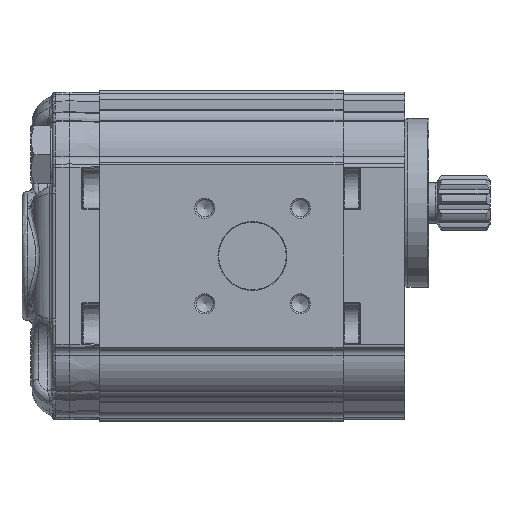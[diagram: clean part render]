
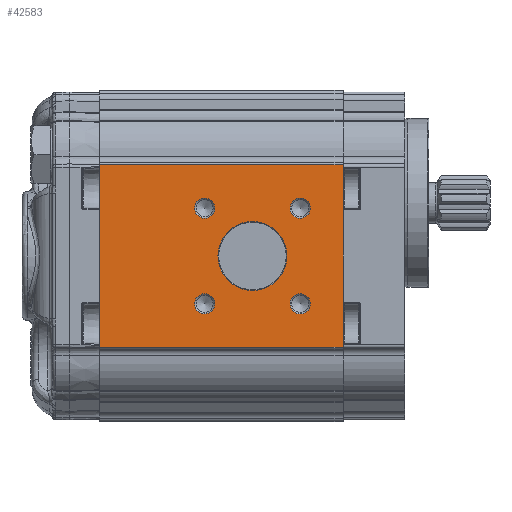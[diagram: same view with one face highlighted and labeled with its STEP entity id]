
A CAD part, left-side view. The second image highlights one B-rep face of the part: STEP entity #42583.
In plain terms, the highlighted planar face has unit normal (-1, 0, 0).
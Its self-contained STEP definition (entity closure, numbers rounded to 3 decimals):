
#2377=PLANE('',#44874);
#3345=LINE('',#58528,#5213);
#3346=LINE('',#58531,#5214);
#3347=LINE('',#58533,#5215);
#3348=LINE('',#58535,#5216);
#5213=VECTOR('',#49193,1000.);
#5214=VECTOR('',#49194,1000.);
#5215=VECTOR('',#49195,1000.);
#5216=VECTOR('',#49196,1000.);
#8960=ORIENTED_EDGE('',*,*,#16762,.T.);
#8961=ORIENTED_EDGE('',*,*,#16763,.T.);
#8962=ORIENTED_EDGE('',*,*,#16764,.T.);
#8963=ORIENTED_EDGE('',*,*,#16765,.T.);
#8964=ORIENTED_EDGE('',*,*,#16766,.T.);
#8965=ORIENTED_EDGE('',*,*,#16767,.F.);
#8966=ORIENTED_EDGE('',*,*,#16768,.F.);
#8967=ORIENTED_EDGE('',*,*,#16769,.T.);
#8968=ORIENTED_EDGE('',*,*,#16770,.T.);
#16762=EDGE_CURVE('',#20866,#20866,#23302,.F.);
#16763=EDGE_CURVE('',#20867,#20867,#23303,.F.);
#16764=EDGE_CURVE('',#20868,#20868,#23304,.F.);
#16765=EDGE_CURVE('',#20869,#20869,#23305,.F.);
#16766=EDGE_CURVE('',#20870,#20870,#23306,.F.);
#16767=EDGE_CURVE('',#20871,#20872,#3345,.T.);
#16768=EDGE_CURVE('',#20873,#20871,#3346,.T.);
#16769=EDGE_CURVE('',#20873,#20874,#3347,.T.);
#16770=EDGE_CURVE('',#20874,#20872,#3348,.T.);
#20866=VERTEX_POINT('',#58519);
#20867=VERTEX_POINT('',#58521);
#20868=VERTEX_POINT('',#58523);
#20869=VERTEX_POINT('',#58525);
#20870=VERTEX_POINT('',#58527);
#20871=VERTEX_POINT('',#58529);
#20872=VERTEX_POINT('',#58530);
#20873=VERTEX_POINT('',#58532);
#20874=VERTEX_POINT('',#58534);
#23302=CIRCLE('',#44875,10.2);
#23303=CIRCLE('',#44876,3.);
#23304=CIRCLE('',#44877,3.);
#23305=CIRCLE('',#44878,3.);
#23306=CIRCLE('',#44879,3.);
#24807=EDGE_LOOP('',(#8960));
#24808=EDGE_LOOP('',(#8961));
#24809=EDGE_LOOP('',(#8962));
#24810=EDGE_LOOP('',(#8963));
#24811=EDGE_LOOP('',(#8964));
#24812=EDGE_LOOP('',(#8965,#8966,#8967,#8968));
#26930=FACE_BOUND('',#24807,.T.);
#26931=FACE_BOUND('',#24808,.T.);
#26932=FACE_BOUND('',#24809,.T.);
#26933=FACE_BOUND('',#24810,.T.);
#26934=FACE_BOUND('',#24811,.T.);
#26935=FACE_BOUND('',#24812,.T.);
#42583=ADVANCED_FACE('',(#26930,#26931,#26932,#26933,#26934,#26935),#2377,
 .T.);
#44874=AXIS2_PLACEMENT_3D('',#58517,#49181,#49182);
#44875=AXIS2_PLACEMENT_3D('',#58518,#49183,#49184);
#44876=AXIS2_PLACEMENT_3D('',#58520,#49185,#49186);
#44877=AXIS2_PLACEMENT_3D('',#58522,#49187,#49188);
#44878=AXIS2_PLACEMENT_3D('',#58524,#49189,#49190);
#44879=AXIS2_PLACEMENT_3D('',#58526,#49191,#49192);
#49181=DIRECTION('',(-1.,0.,0.));
#49182=DIRECTION('',(0.,0.,1.));
#49183=DIRECTION('',(-1.,0.,0.));
#49184=DIRECTION('',(0.,0.,1.));
#49185=DIRECTION('',(-1.,0.,0.));
#49186=DIRECTION('',(0.,0.,1.));
#49187=DIRECTION('',(-1.,0.,0.));
#49188=DIRECTION('',(0.,0.,1.));
#49189=DIRECTION('',(-1.,0.,0.));
#49190=DIRECTION('',(0.,0.,1.));
#49191=DIRECTION('',(-1.,0.,0.));
#49192=DIRECTION('',(0.,0.,1.));
#49193=DIRECTION('',(0.,0.,-1.));
#49194=DIRECTION('',(0.,-1.,0.));
#49195=DIRECTION('',(0.,0.,-1.));
#49196=DIRECTION('',(0.,-1.,0.));
#58517=CARTESIAN_POINT('',(-43.,72.,27.048));
#58518=CARTESIAN_POINT('',(-43.,26.8,0.));
#58519=CARTESIAN_POINT('',(-43.,26.8,10.2));
#58520=CARTESIAN_POINT('',(-43.,40.942,-14.142));
#58521=CARTESIAN_POINT('',(-43.,40.942,-11.142));
#58522=CARTESIAN_POINT('',(-43.,40.942,14.142));
#58523=CARTESIAN_POINT('',(-43.,40.942,17.142));
#58524=CARTESIAN_POINT('',(-43.,12.658,14.142));
#58525=CARTESIAN_POINT('',(-43.,12.658,17.142));
#58526=CARTESIAN_POINT('',(-43.,12.658,-14.142));
#58527=CARTESIAN_POINT('',(-43.,12.658,-11.142));
#58528=CARTESIAN_POINT('',(-43.,0.,27.048));
#58529=CARTESIAN_POINT('',(-43.,0.,27.048));
#58530=CARTESIAN_POINT('',(-43.,0.,-27.048));
#58531=CARTESIAN_POINT('',(-43.,72.,27.048));
#58532=CARTESIAN_POINT('',(-43.,72.,27.048));
#58533=CARTESIAN_POINT('',(-43.,72.,27.048));
#58534=CARTESIAN_POINT('',(-43.,72.,-27.048));
#58535=CARTESIAN_POINT('',(-43.,72.,-27.048));
